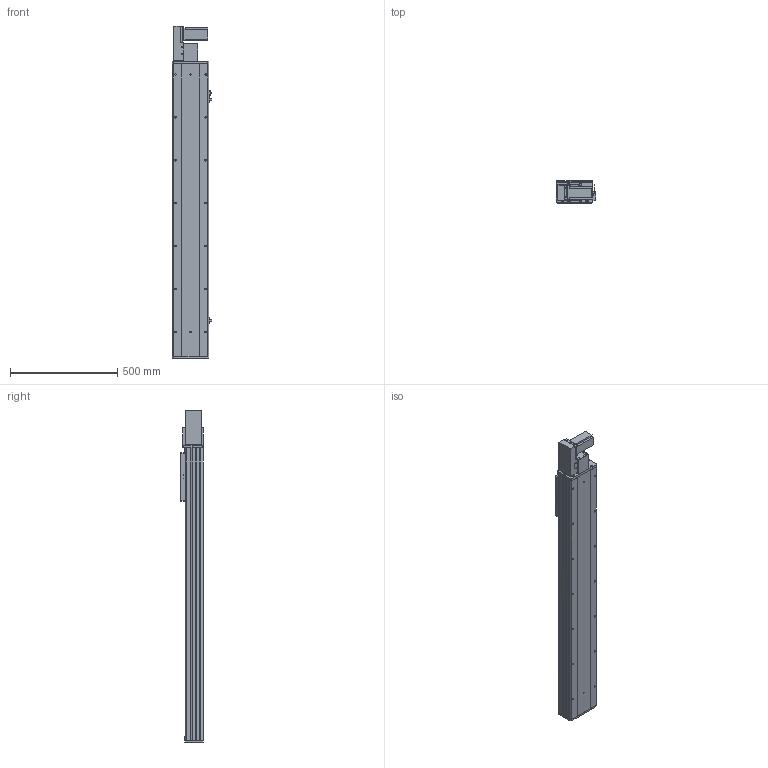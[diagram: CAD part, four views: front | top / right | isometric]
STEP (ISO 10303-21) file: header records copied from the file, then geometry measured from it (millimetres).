
FILE_DESCRIPTION (( 'STEP AP203' ), '1' );
FILE_NAME ('Y170CB-D105-S1050-BL-P400W.STEP', '2020-02-20T01:17:14', ( '微软用户' ), ( '微软中国' ), 'SwSTEP 2.0', 'SolidWorks 2017', '' );
FILE_SCHEMA (( 'CONFIG_CONTROL_DESIGN' ));
Length unit declared in the file: millimetre
Products named in the file (18): --70CB --喘謫眊楊擘啣-; 70CB-耜裔啣-; 70C--詩湍揤踡え-; B-源倛裔啣; 70CB--耜裔; 17B-耜蚾蟀諉啣----; Y170CB-陔俋离換覜結え---; 70C-雄赽釱-奻-; 0B-萇儂楊擘啣; 70B喘謫眊----; 0C--雄赽釱俋欶-170; san松下电机400不带刹车----; Y1埴倛裔; 70CB-詩湍--; Y70俋欶BR----; Y170CB-D105-S1050-BL-P400W; Y100-135俋离換覜ん--; 70CB-掛极-
Assembly tree (21 placements, depth 2):
  Y170CB-D105-S1050-BL-P400W
    B-源倛裔啣
    17B-耜蚾蟀諉啣----
    0B-萇儂楊擘啣
    san松下电机400不带刹车----
    Y70俋欶BR----
    70CB-掛极-
    --70CB --喘謫眊楊擘啣-
    70CB-耜裔啣-  x2
    70C--詩湍揤踡え-  x2
    70CB--耜裔
    70C-雄赽釱-奻-
    0C--雄赽釱俋欶-170
    70CB-詩湍--
    Y100-135俋离換覜ん--  x3
    Y170CB-陔俋离換覜結え---
    70B喘謫眊----
    Y1埴倛裔
Bounding box: 183.5 x 107 x 1547 mm (x, y, z)
Volume: 6734832.9 mm3; surface area: 2412737 mm2
Topology: 21 solids, 21 shells, 1007 faces, 2693 edges, 1786 vertices
Faces by surface type: cylinder 519, plane 464, cone 24
Entity records: 32028 total; most frequent: CARTESIAN_POINT 5856, DIRECTION 5206, ORIENTED_EDGE 4868, EDGE_CURVE 2434, AXIS2_PLACEMENT_3D 1904, VERTEX_POINT 1616, LINE 1398, VECTOR 1398
